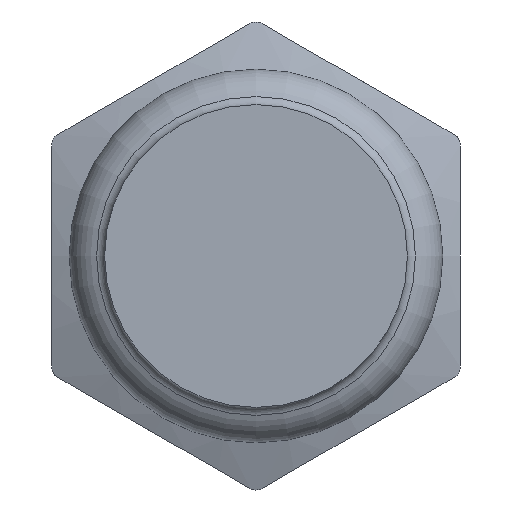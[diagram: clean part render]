
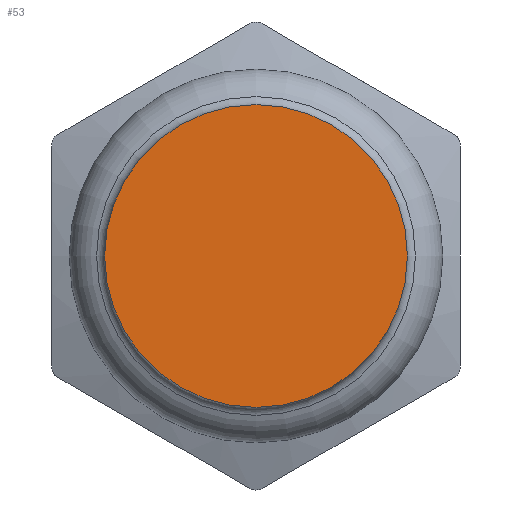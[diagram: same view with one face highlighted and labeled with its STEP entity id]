
A CAD part, front view. The second image highlights one B-rep face of the part: STEP entity #53.
In plain terms, the highlighted planar face has unit normal (0, -1, 0).
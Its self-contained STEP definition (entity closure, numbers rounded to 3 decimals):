
#53=ADVANCED_FACE('',(#78),#80,.T.);
#78=FACE_BOUND('',#79,.T.);
#79=EDGE_LOOP('',(#275));
#80=PLANE('',#81);
#81=AXIS2_PLACEMENT_3D('',#82,#83,#84);
#82=CARTESIAN_POINT('',(0.,0.,0.));
#83=DIRECTION('',(0.,-1.,0.));
#84=DIRECTION('',(0.,0.,1.));
#275=ORIENTED_EDGE('',*,*,#375,.F.);
#375=EDGE_CURVE('',#425,#425,#426,.T.);
#425=VERTEX_POINT('',#513);
#426=CIRCLE('',#514,12.6);
#513=CARTESIAN_POINT('',(0.,0.,12.6));
#514=AXIS2_PLACEMENT_3D('',#515,#516,#517);
#515=CARTESIAN_POINT('',(0.,0.,0.));
#516=DIRECTION('',(0.,1.,0.));
#517=DIRECTION('',(0.,0.,1.));
